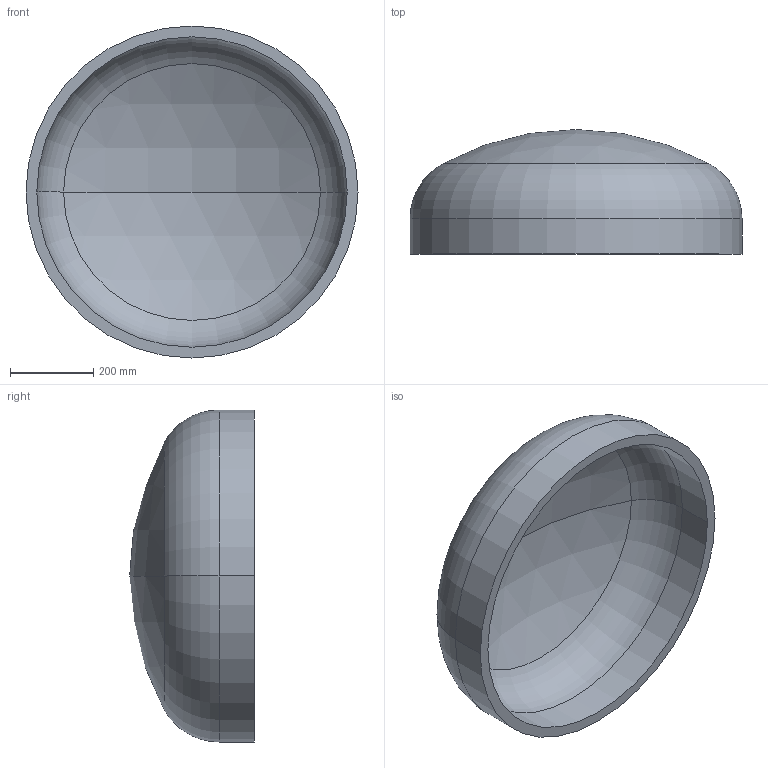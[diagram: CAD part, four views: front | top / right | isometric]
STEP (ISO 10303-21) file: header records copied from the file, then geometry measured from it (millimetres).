
FILE_DESCRIPTION (( 'STEP AP203' ), '1' );
FILE_NAME ('DIN 28013 Korbbogenform_-_Boden DIN 28013 - 800 x 85 - I - s=26.step', '2016-07-01T08:14:35', ( '' ), ( '' ), 'SwSTEP 2.0', 'SolidWorks 2013', '' );
FILE_SCHEMA (( 'CONFIG_CONTROL_DESIGN' ));
Length unit declared in the file: millimetre
Products named in the file (1): DIN 28013 Korbbogenform_-_Boden DIN 28013 - 800 x 85 - I - s=26
Bounding box: 800 x 300.2 x 800 mm (x, y, z)
Volume: 22774360.3 mm3; surface area: 1816510.6 mm2
Topology: 1 solids, 1 shells, 13 faces, 24 edges, 14 vertices
Faces by surface type: torus 4, cylinder 4, sphere 4, plane 1
Entity records: 407 total; most frequent: DIRECTION 72, CARTESIAN_POINT 52, ORIENTED_EDGE 48, AXIS2_PLACEMENT_3D 34, EDGE_CURVE 24, CIRCLE 20, EDGE_LOOP 14, VERTEX_POINT 14
